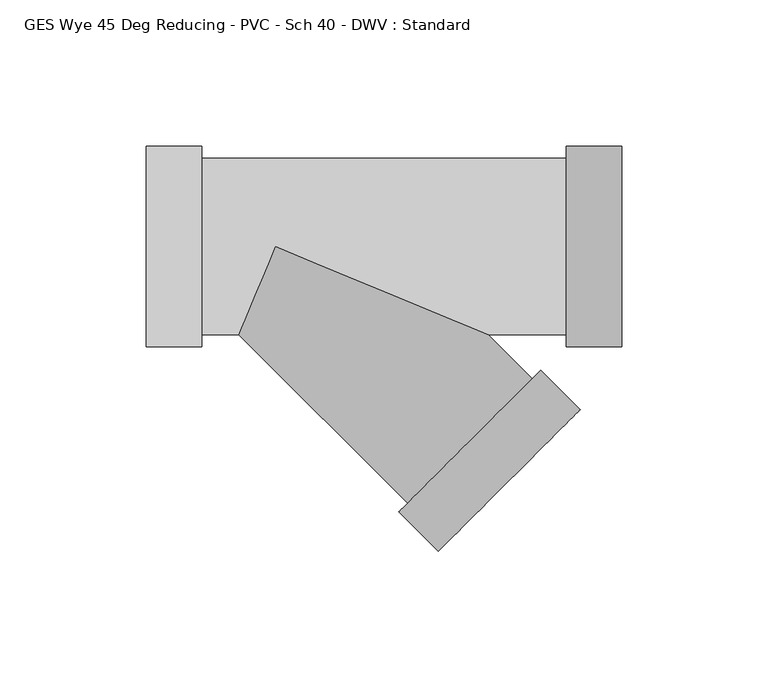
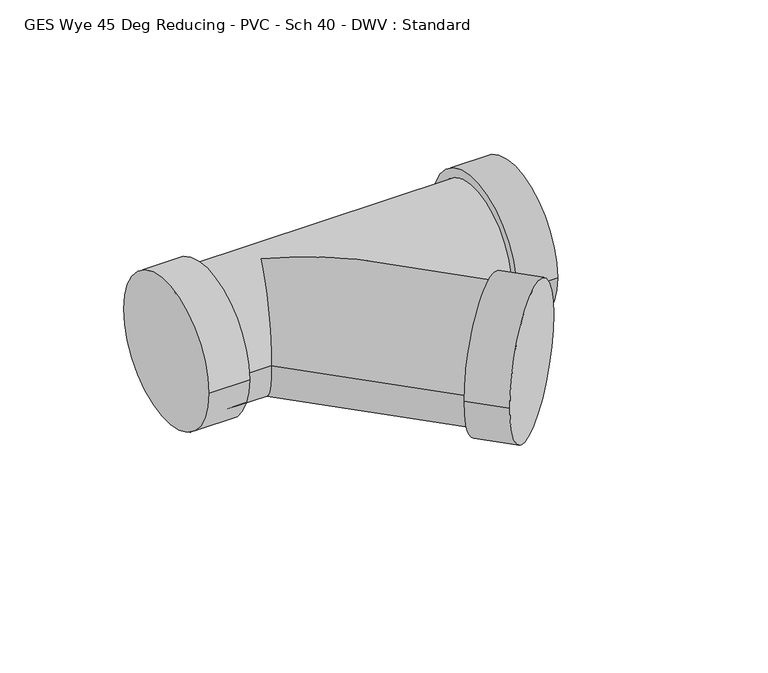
"""IFC4 building model written with IfcOpenShell, lengths in millimetres: pipe fitting geometry, GES Wye 45 Deg Reducing - PVC - Sch 40 - DWV : Standard."""

from ifc_helpers import new_model, si_unit, frame, origin, place, context, project, spatial, circle_curve, ellipse_curve, source, transform, mapped, element, save
from ifc_brep_helpers import plane_surface, cylinder_surface, advanced_brep


def ges_wye_45_deg_reducing_pvc_sch_40_dwv_standard_65c4563d(model_context):
    return source(origin(), model_context, "Body", "AdvancedBrep", [
        advanced_brep(
        [(-25.1182187, 34.3154, 0.0), (-25.1182187, -34.3154, 0.0), (-25.1182187, 30.1625, 0.0), (-25.1182187, -30.1625, 0.0), (-44.1682187, 34.3154, 0.0), (-44.1682187, -34.3154, 0.0), (99.5759375, -34.3154, 0.0), (99.5759375, 34.3154, 0.0), (99.5759375, -30.1625, 0.0), (99.5759375, 30.1625, 0.0), (118.6259375, -34.3154, 0.0), (118.6259375, 34.3154, 0.0), (72.8187183, -30.1625, 0.0), (0.0, 0.0, -30.1625), (-12.4937163, -30.1625, 0.0), (0.0, 0.0, 30.1625), (45.2801366, -87.936351, 0.0), (87.9363525, -45.2801337, 0.0), (42.3435929, -90.8728948, 0.0), (90.8728962, -42.3435899, 0.0), (55.8139773, -104.3432787, 0.0), (104.3432806, -55.8139738, 0.0)],
        [
            (0, 1, circle_curve(frame((-25.1182187, 0.0, 0.0), z_axis=(1.0, 0.0, 0.0), x_axis=(0.0, -1.0, 0.0)), 34.3154)),
            (1, 0, circle_curve(frame((-25.1182187, 0.0, 0.0), z_axis=(1.0, 0.0, 0.0), x_axis=(0.0, -1.0, 0.0)), 34.3154)),
            (2, 3, circle_curve(frame((-25.1182187, 0.0, 0.0), z_axis=(-1.0, 0.0, 0.0), x_axis=(0.0, 0.0, -1.0)), 30.1625)),
            (3, 2, circle_curve(frame((-25.1182187, 0.0, 0.0), z_axis=(-1.0, 0.0, 0.0), x_axis=(0.0, 0.0, 1.0)), 30.1625)),
            (4, 5, circle_curve(frame((-44.1682187, 0.0, 0.0), z_axis=(-1.0, 0.0, 0.0), x_axis=(0.0, -1.0, 0.0)), 34.3154)),
            (5, 4, circle_curve(frame((-44.1682187, 0.0, 0.0), z_axis=(-1.0, 0.0, 0.0), x_axis=(0.0, -1.0, 0.0)), 34.3154)),
            (0, 4),
            (5, 1),
            (6, 7, circle_curve(frame((99.5759375, 0.0, 0.0), z_axis=(-1.0, 0.0, 0.0), x_axis=(0.0, 1.0, 0.0)), 34.3154)),
            (7, 6, circle_curve(frame((99.5759375, 0.0, 0.0), z_axis=(-1.0, 0.0, 0.0), x_axis=(0.0, 1.0, 0.0)), 34.3154)),
            (8, 9, circle_curve(frame((99.5759375, 0.0, 0.0), z_axis=(1.0, 0.0, 0.0), x_axis=(0.0, 0.0, -1.0)), 30.1625)),
            (9, 8, circle_curve(frame((99.5759375, 0.0, 0.0), z_axis=(1.0, 0.0, 0.0), x_axis=(0.0, 0.0, 1.0)), 30.1625)),
            (10, 11, circle_curve(frame((118.6259375, 0.0, 0.0), z_axis=(1.0, 0.0, 0.0), x_axis=(0.0, 1.0, 0.0)), 34.3154)),
            (11, 10, circle_curve(frame((118.6259375, 0.0, 0.0), z_axis=(1.0, 0.0, 0.0), x_axis=(0.0, 1.0, 0.0)), 34.3154)),
            (6, 10),
            (11, 7),
            (2, 9),
            (8, 12),
            (12, 13, ellipse_curve(frame((0.0, 0.0, 0.0), z_axis=(0.38268342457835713, 0.9238795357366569, 0.0), x_axis=(0.9238795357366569, -0.3826834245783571, 0.0)), 78.8184125, 30.1625)),
            (13, 14, ellipse_curve(frame((0.0, 0.0, 0.0), z_axis=(-0.923879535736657, 0.3826834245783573, 0.0), x_axis=(0.38268342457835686, 0.9238795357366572, 0.0)), 32.6476546, 30.1625)),
            (14, 3),
            (14, 15, ellipse_curve(frame((0.0, 0.0, 0.0), z_axis=(-0.923879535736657, 0.3826834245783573, 0.0), x_axis=(0.38268342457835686, 0.9238795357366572, 0.0)), 32.6476546, 30.1625)),
            (15, 12, ellipse_curve(frame((0.0, 0.0, 0.0), z_axis=(0.38268342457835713, 0.9238795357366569, 0.0), x_axis=(0.9238795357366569, -0.3826834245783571, 0.0)), 78.8184125, 30.1625)),
            (14, 16),
            (16, 17, circle_curve(frame((66.6082446, -66.6082423, 0.0), z_axis=(-0.7071067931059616, 0.7071067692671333, 0.0), x_axis=(0.7071067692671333, 0.7071067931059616, 0.0)), 30.1625)),
            (17, 12),
            (17, 16, circle_curve(frame((66.6082446, -66.6082423, 0.0), z_axis=(-0.7071067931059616, 0.7071067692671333, 0.0), x_axis=(0.7071067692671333, 0.7071067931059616, 0.0)), 30.1625)),
            (18, 19, circle_curve(frame((66.6082446, -66.6082423, 0.0), z_axis=(-0.7071067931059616, 0.7071067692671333, 0.0), x_axis=(0.7071067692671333, 0.7071067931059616, 0.0)), 34.3154)),
            (19, 18, circle_curve(frame((66.6082446, -66.6082423, 0.0), z_axis=(-0.7071067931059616, 0.7071067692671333, 0.0), x_axis=(0.7071067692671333, 0.7071067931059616, 0.0)), 34.3154)),
            (20, 21, circle_curve(frame((80.078629, -80.0786263, 0.0), z_axis=(0.7071067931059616, -0.7071067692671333, 0.0), x_axis=(0.7071067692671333, 0.7071067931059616, 0.0)), 34.3154)),
            (21, 20, circle_curve(frame((80.078629, -80.0786263, 0.0), z_axis=(0.7071067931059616, -0.7071067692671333, 0.0), x_axis=(0.7071067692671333, 0.7071067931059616, 0.0)), 34.3154)),
            (18, 20),
            (21, 19),
        ],
        [
            plane_surface(frame((-25.1182187, 0.0, 0.0), z_axis=(1.0, 0.0, 0.0), x_axis=(0.0, 0.0, 1.0))),
            plane_surface(frame((-44.1682187, 0.0, 0.0), z_axis=(-1.0, 0.0, 0.0), x_axis=(0.0, 0.0, 1.0))),
            cylinder_surface(frame((-25.1182187, 0.0, 0.0), z_axis=(1.0, 0.0, 0.0), x_axis=(0.0, -1.0, 0.0)), 34.3154),
            plane_surface(frame((99.5759375, 0.0, 0.0), z_axis=(-1.0, 0.0, 0.0), x_axis=(0.0, 0.0, 1.0))),
            plane_surface(frame((118.6259375, 0.0, 0.0), z_axis=(1.0, 0.0, 0.0), x_axis=(0.0, 0.0, 1.0))),
            cylinder_surface(frame((99.5759375, 0.0, 0.0), z_axis=(-1.0, 0.0, 0.0), x_axis=(0.0, 1.0, 0.0)), 34.3154),
            cylinder_surface(frame((-25.1182187, 0.0, 0.0), z_axis=(1.0, 0.0, 0.0), x_axis=(0.0, 0.0, -1.0)), 30.1625),
            cylinder_surface(frame((-25.1182187, 0.0, 0.0), z_axis=(1.0, 0.0, 0.0), x_axis=(0.0, 0.0, 1.0)), 30.1625),
            cylinder_surface(frame((0.0, 0.0, 0.0), z_axis=(-0.7071067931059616, 0.7071067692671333, 0.0), x_axis=(0.7071067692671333, 0.7071067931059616, 0.0)), 30.1625),
            plane_surface(frame((66.6082446, -66.6082423, 0.0), z_axis=(-0.7071067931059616, 0.7071067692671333, 0.0), x_axis=(0.0, 0.0, 1.0))),
            plane_surface(frame((80.078629, -80.0786263, 0.0), z_axis=(0.7071067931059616, -0.7071067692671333, 0.0), x_axis=(0.0, 0.0, 1.0))),
            cylinder_surface(frame((66.6082446, -66.6082423, 0.0), z_axis=(-0.7071067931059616, 0.7071067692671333, 0.0), x_axis=(0.7071067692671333, 0.7071067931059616, 0.0)), 34.3154),
        ],
        [
            (0, [[1, 2], [3, 4]]),
            (1, [[5, 6]]),
            (2, [[-1, 7, -6, 8]]),
            (2, [[-2, -8, -5, -7]]),
            (3, [[9, 10], [11, 12]]),
            (4, [[13, 14]]),
            (5, [[-9, 15, -14, 16]]),
            (5, [[-10, -16, -13, -15]]),
            (6, [[17, -11, 18, 19, 20, 21, -3]]),
            (7, [[-17, -4, -21, 22, 23, -18, -12]]),
            (8, [[24, 25, 26, -23, -22]]),
            (8, [[-24, -20, -19, -26, 27]]),
            (9, [[28, 29], [-25, -27]]),
            (10, [[30, 31]]),
            (11, [[-28, 32, -31, 33]]),
            (11, [[-29, -33, -30, -32]]),
        ],
    ),
    ])


if __name__ == "__main__":
    model = new_model("IFC4")
    model_context = context("Model", 3, world=origin())
    ifc_project = project(units=[si_unit("LENGTHUNIT", "METRE", prefix="MILLI")], contexts=[model_context])
    site = spatial("IfcSite", under=ifc_project)
    building = spatial("IfcBuilding", under=site)
    placement = place(None, origin())
    ges_wye_45_deg_reducing_pvc_sch_40_dwv_standard_shape = ges_wye_45_deg_reducing_pvc_sch_40_dwv_standard_65c4563d(model_context)
    element("IfcPipeFitting", 1, ObjectType="GES Wye 45 Deg Reducing - PVC - Sch 40 - DWV : Standard", at=placement, inside=building, context=model_context, shape_type="MappedRepresentation", body=[
        mapped(ges_wye_45_deg_reducing_pvc_sch_40_dwv_standard_shape, transform((0.0, 0.0, 0.0), x_axis=(1.0, 0.0, 0.0), y_axis=(0.0, 1.0, 0.0), z_axis=(0.0, 0.0, 1.0))),
    ])
    save(model, "model.ifc")
